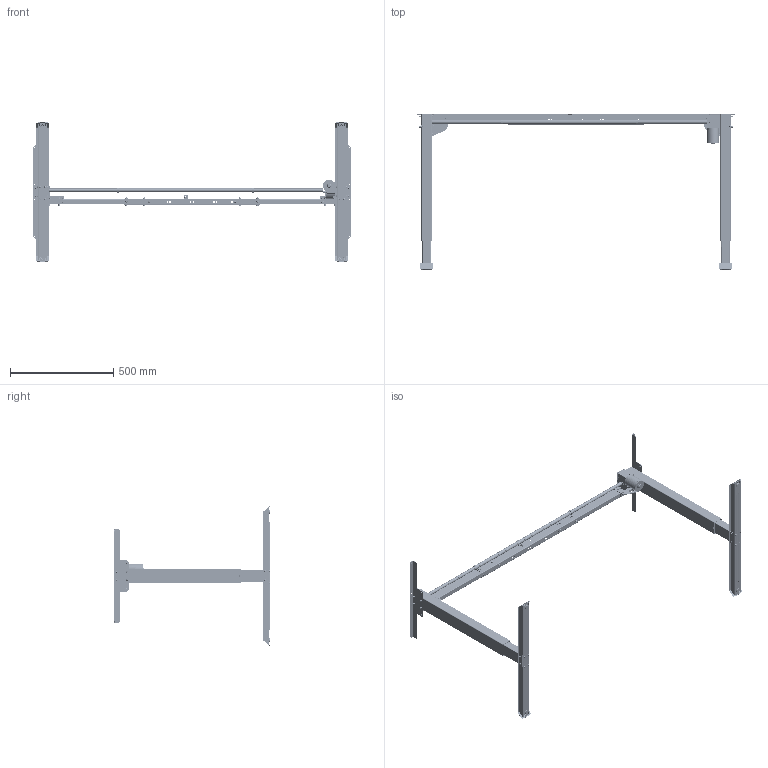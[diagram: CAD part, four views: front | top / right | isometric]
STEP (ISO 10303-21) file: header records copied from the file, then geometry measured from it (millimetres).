
FILE_DESCRIPTION (( 'STEP AP214' ), '1' );
FILE_NAME ('Tech-draw_501-20_XX132-172.STEP', '2024-01-12T09:01:50', ( '' ), ( '' ), 'SwSTEP 2.0', 'SolidWorks 2023', '' );
FILE_SCHEMA (( 'AUTOMOTIVE_DESIGN' ));
Length unit declared in the file: millimetre
Products named in the file (78): 156440_Shell; 360360_70mm; 156500_501-33 NEW; 159300_Shell; 353060; 343380; 360320; 352350; 357760_Højere; 360330; 353030; 155730_silver; 341800; 353120; 356430_60x40; 357710; 343340; 137820_W5; 358020; 343330; 325000; 301890_Bend 7; 356390; 357720; 357650; 357620; 160360_silver; 314690; 360300; Tech-draw_501-20_XX132-172; 360490; 340580; 160340_501-20 XS132-172; 160370_silver; 300490; 156480; 149460; 151900; 357630; 353110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
Assembly tree (188 placements, depth 7):
  Tech-draw_501-20_XX132-172
    160340_501-20 XS132-172
      340760  x3
      332570  x4
      149460
        137820_W5
          343340
          137810  x2
            343330
            340580
        140340_L=152 travers
          344270
          344280  x2
          343090  x2
          343080  x2
          324420  x2
          343380
        344390
        340760_zinc  x4
        304650_silver  x5
        300490  x5
      160370_silver
        360300
        360330
        159290_Shell
          156440_Shell
            156460_Shell
              356390
              360340_kopi_gammel
            357580  x2
            357760_Højere
            358020
            357710
            352350
          357630  x2
          357640  x2
          341800
          156470_501-33 NEW
            357620
            360350_70mm
          352350
        159280_501-20
          359910_501-33 NY
          360380
          360490  x2
        360310
        358000_Simplify_1  x3
        340760  x2
        332570  x2
        349470  x2
        155730_silver
          357990_black
          356710_silver
          322810_zinc  x3
          353020
          353030
          151900
            353100
            322650_501-33  x2
            353050
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Bounding box: 1536 x 756.2 x 674.9 mm (x, y, z)
Volume: 2219516.7 mm3; surface area: 2622677.4 mm2
Topology: 181 solids, 181 shells, 9387 faces, 24361 edges, 15438 vertices
Faces by surface type: plane 4954, cylinder 2955, bspline 637, cone 406, torus 234, sphere 201
Full cylindrical faces by diameter (mm): 1 x3, 1.2 x16, 1.6 x1, 1.7 x2, 1.9 x6, 2 x2, 2.2 x2, 2.5 x5, 3 x18, 3.3 x14, 4 x48, 4.2 x12, 4.5 x5, 4.98 x2, 5 x228, 5.5 x8, 6 x341, 6.4 x1, 6.5 x14, 7 x28, 7.4 x4, 7.5 x13, 8 x32, 8.2 x4, 8.4 x2, 8.5 x22, 9 x4, 10 x29, 12 x1, 13.4 x2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
Entity records: 197737 total; most frequent: CARTESIAN_POINT 72321, ORIENTED_EDGE 25698, DIRECTION 24970, EDGE_CURVE 12849, AXIS2_PLACEMENT_3D 8536, VERTEX_POINT 8433, VECTOR 7898, LINE 7898
